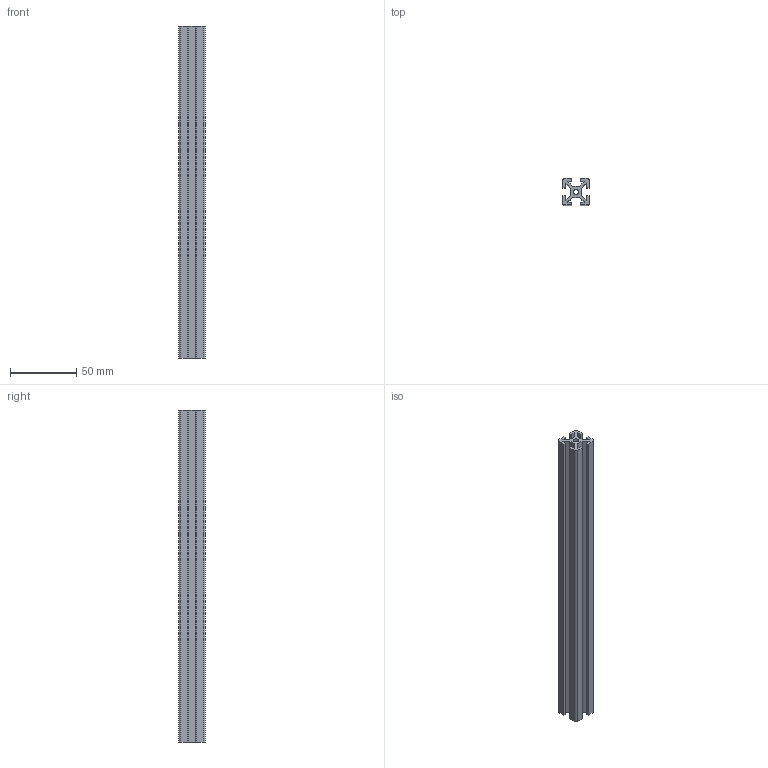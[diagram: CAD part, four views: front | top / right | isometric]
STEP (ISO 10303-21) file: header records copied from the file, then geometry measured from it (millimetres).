
FILE_DESCRIPTION(/* description */ (''),/* implementation_level */ '2;1');
FILE_NAME(/* name */ 'C:/Users/User/Desktop/2020 Aluminium Extrusion T-Slot v2.step',/* time_stamp */ '2020-09-21T13:41:31+08:00',/* author */ (''),/* organization */ (''),/* preprocessor_version */ 'ST-DEVELOPER v18.1',/* originating_system */ 'Autodesk Translation Framework v9.3.0.1241',/* authorisation */ '');
FILE_SCHEMA (('AUTOMOTIVE_DESIGN { 1 0 10303 214 3 1 1 }'));
Length unit declared in the file: millimetre
Products named in the file (1): 2020 Aluminium Extrusion T-Slot
Bounding box: 20 x 20 x 250 mm (x, y, z)
Volume: 47355.5 mm3; surface area: 42784 mm2
Topology: 1 solids, 1 shells, 75 faces, 219 edges, 146 vertices
Faces by surface type: plane 38, cylinder 37
Full cylindrical faces by diameter (mm): 4 x1
Entity records: 2551 total; most frequent: DIRECTION 445, CARTESIAN_POINT 441, ORIENTED_EDGE 438, EDGE_CURVE 219, AXIS2_PLACEMENT_3D 150, VERTEX_POINT 146, LINE 145, VECTOR 145
